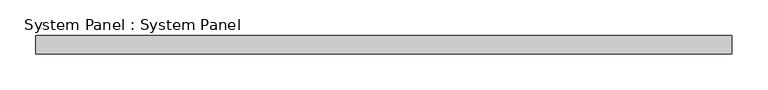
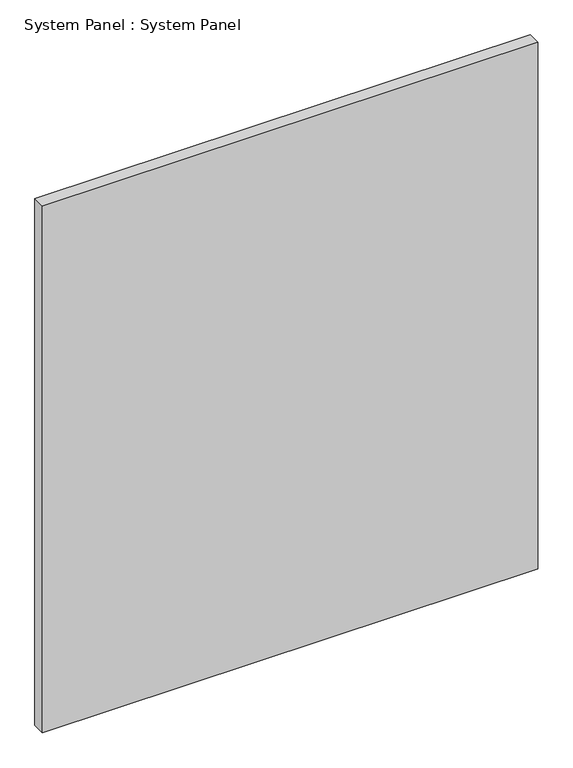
"""IFC4 building model written with IfcOpenShell, lengths in millimetres: plate geometry, System Panel : System Panel."""

from ifc_helpers import new_model, si_unit, origin, origin_with_axes, place, context, project, spatial, polyline, outline, extrude, source, transform, mapped, element, save


def system_panel_system_panel_537caf6d(model_context):
    return source(origin(), model_context, "Body", "SweptSolid", [
        extrude(outline(polyline([(485.775, 19.05), (-485.775, 19.05), (-485.775, 44.45), (485.775, 44.45), (485.775, 19.05)])), origin_with_axes(), (0.0, 0.0, 1.0), 1092.2),
    ])


if __name__ == "__main__":
    model = new_model("IFC4")
    model_context = context("Model", 3, world=origin())
    ifc_project = project(units=[si_unit("LENGTHUNIT", "METRE", prefix="MILLI")], contexts=[model_context])
    site = spatial("IfcSite", under=ifc_project)
    building = spatial("IfcBuilding", under=site)
    placement = place(None, origin())
    system_panel_system_panel_shape = system_panel_system_panel_537caf6d(model_context)
    element("IfcPlate", 1, ObjectType="System Panel : System Panel", at=placement, inside=building, context=model_context, shape_type="MappedRepresentation", body=[
        mapped(system_panel_system_panel_shape, transform((0.0, 0.0, 0.0), x_axis=(1.0, 0.0, 0.0), y_axis=(0.0, 1.0, 0.0), z_axis=(0.0, 0.0, 1.0))),
    ])
    save(model, "model.ifc")
